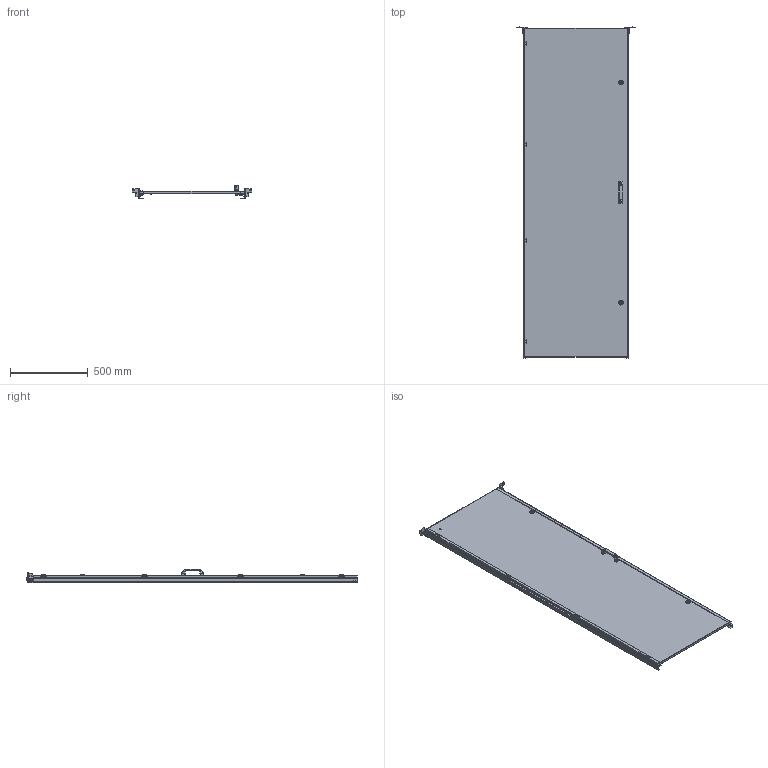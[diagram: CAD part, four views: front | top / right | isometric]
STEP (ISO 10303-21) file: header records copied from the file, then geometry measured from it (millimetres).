
FILE_DESCRIPTION (( 'STEP AP203' ), '1' );
FILE_NAME ('ID 220.80 ﾑﾁ ﾄ粢 粹澵.STEP', '2025-01-23T11:59:52', ( '' ), ( '' ), 'SwSTEP 2.0', 'SolidWorks 2022', '' );
FILE_SCHEMA (( 'CONFIG_CONTROL_DESIGN' ));
Length unit declared in the file: millimetre
Products named in the file (5): ID 220.80 СБ Дверь внутренняя; ID 180.80 Дверь внутренняя_ID 220.80 Дверь внутренняя; MP 01.001 Держатель монтажной панели верхний_По умолчаниюSM-FLAT-PATTERN; MP 01.001-01 Держатель монтажной панели верхний; Винт специальный самонарезающий оц. 4,8x11_Винт специальный самонарезающий оц. 4,8x11
Assembly tree (7 placements, depth 2):
  ID 220.80 СБ Дверь внутренняя
    ID 180.80 Дверь внутренняя_ID 220.80 Дверь внутренняя
    MP 01.001 Держатель монтажной панели верхний_По умолчаниюSM-FLAT-PATTERN
    MP 01.001-01 Держатель монтажной панели верхний
    Винт специальный самонарезающий оц. 4,8x11_Винт специальный самонарезающий оц. 4,8x11  x4
Bounding box: 770 x 2139.1 x 88.74 mm (x, y, z)
Volume: 2899487.5 mm3; surface area: 3789926.3 mm2
Topology: 40 solids, 40 shells, 1940 faces, 5026 edges, 3176 vertices
Faces by surface type: plane 886, cylinder 566, cone 262, bspline 108, sphere 88, torus 30
Entity records: 57874 total; most frequent: CARTESIAN_POINT 14827, ORIENTED_EDGE 9126, DIRECTION 8636, EDGE_CURVE 4563, AXIS2_PLACEMENT_3D 3153, VERTEX_POINT 2888, LINE 2330, VECTOR 2330
